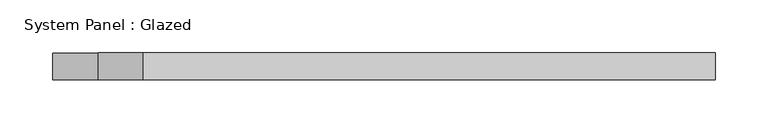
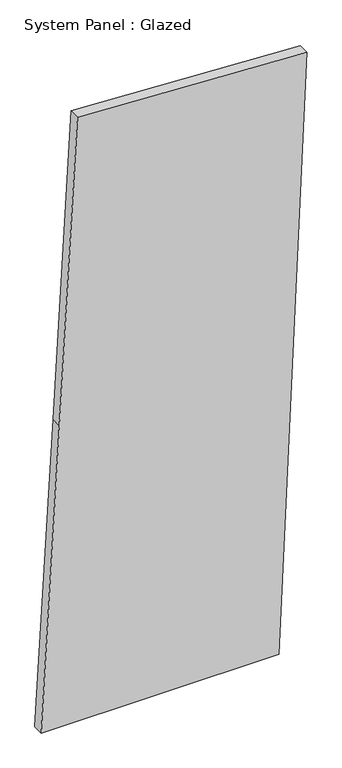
"""IFC4 building model written with IfcOpenShell, lengths in millimetres: plate geometry, System Panel : Glazed."""

from ifc_helpers import new_model, si_unit, frame, origin, place, context, project, spatial, polyline, outline, extrude, source, transform, mapped, element, save


def system_panel_glazed_3d6d5209(model_context):
    return source(origin(), model_context, "Body", "SweptSolid", [
        extrude(outline(polyline([(0.0, -313.3431286), (0.0, 247.5543331), (739.0022228, 280.4750975), (1476.8206921, 313.3431286), (1504.3122702, -227.6530218), (751.1307812, -270.5564824), (0.0, -313.3431286)])), frame((0.0, -44.45, 0.0), z_axis=(0.0, 1.0, 0.0), x_axis=(0.0, 0.0, 1.0)), (0.0, 0.0, 1.0), 25.4),
    ])


if __name__ == "__main__":
    model = new_model("IFC4")
    model_context = context("Model", 3, world=origin())
    ifc_project = project(units=[si_unit("LENGTHUNIT", "METRE", prefix="MILLI")], contexts=[model_context])
    site = spatial("IfcSite", under=ifc_project)
    building = spatial("IfcBuilding", under=site)
    placement = place(None, origin())
    system_panel_glazed_shape = system_panel_glazed_3d6d5209(model_context)
    element("IfcPlate", 1, ObjectType="System Panel : Glazed", at=placement, inside=building, context=model_context, shape_type="MappedRepresentation", body=[
        mapped(system_panel_glazed_shape, transform((0.0, 0.0, 0.0), x_axis=(1.0, 0.0, 0.0), y_axis=(0.0, 1.0, 0.0), z_axis=(0.0, 0.0, 1.0))),
    ])
    save(model, "model.ifc")
